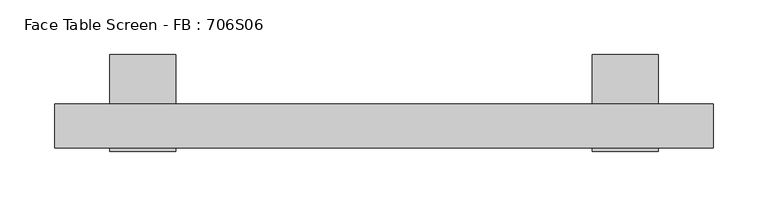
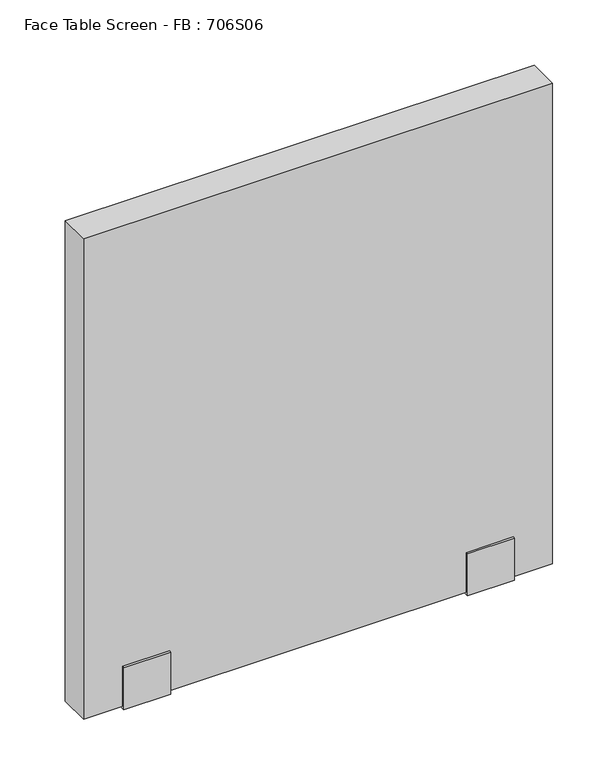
"""IFC4 building model written with IfcOpenShell, lengths in millimetres: furniture geometry, Face Table Screen - FB : 706S06."""

import ifcopenshell
import ifcopenshell.guid

model = None  # the IFC model being written
_history = None  # IfcOwnerHistory: only IFC2X3 demands one
_inside = {}  # id of a spatial element -> (the spatial element, [elements in it])
_under = {}  # id of a project, library or spatial element -> (it, [spatial elements below it])
_declared = {}  # id of a project -> (the project, [libraries it declares])
_typed = {}  # id of a type object -> (the type object, [elements of that type])
_made_of = {}  # id of a material, layer set ... -> (it, [elements and type objects made of it])


def new_model(schema):
    """Start an empty IFC model of exactly this schema.

    Asked for "IFC4X3", IfcOpenShell would pick the latest addendum, in which some entities
    have other attributes; the version numbers below select the first issue.
    IFC2X3 requires an IfcOwnerHistory on every rooted entity: one is made here for all.
    """
    global model, _history
    if schema == "IFC4X3":
        model = ifcopenshell.file(schema_version=(4, 3, 0, 0))
    else:
        model = ifcopenshell.file(schema=schema)
    _inside.clear()
    _under.clear()
    _declared.clear()
    _typed.clear()
    _made_of.clear()
    _history = None
    if model.schema == "IFC2X3":
        org = make("IfcOrganization", Name="unknown")
        user = make(
            "IfcPersonAndOrganization",
            ThePerson=make("IfcPerson", FamilyName="unknown"),
            TheOrganization=org,
        )
        app = make(
            "IfcApplication",
            ApplicationDeveloper=org,
            Version="unknown",
            ApplicationFullName="unknown",
            ApplicationIdentifier="unknown",
        )
        _history = make(
            "IfcOwnerHistory",
            OwningUser=user,
            OwningApplication=app,
            ChangeAction="ADDED",
            CreationDate=0,
        )
    return model


def make(cls, **values):
    """One entity of the class cls with the attributes given. An attribute that is None is left unset."""
    return model.create_entity(
        cls, **{name: value for name, value in values.items() if value is not None}
    )


def rooted(cls, **values):
    """An entity with a GlobalId (a new one), such as an element, a storey or a relation."""
    return make(cls, GlobalId=ifcopenshell.guid.new(), OwnerHistory=_history, **values)


def si_unit(unit_type, name, prefix=None):
    """IfcSIUnit, for example si_unit("LENGTHUNIT", "METRE", prefix="MILLI")."""
    return make("IfcSIUnit", UnitType=unit_type, Prefix=prefix, Name=name)


def assignment(units):
    """IfcUnitAssignment: the units of a project."""
    return None if units is None else make("IfcUnitAssignment", Units=units)


def point(xyz):
    """IfcCartesianPoint."""
    return None if xyz is None else make("IfcCartesianPoint", Coordinates=xyz)


def direction(xyz):
    """IfcDirection."""
    return None if xyz is None else make("IfcDirection", DirectionRatios=xyz)


def frame(location, z_axis=None, x_axis=None):
    """IfcAxis2Placement3D, a coordinate frame: its origin and axes. An axis left out is left unset."""
    return make(
        "IfcAxis2Placement3D",
        Location=point(location),
        Axis=direction(z_axis),
        RefDirection=direction(x_axis),
    )


def origin():
    """The frame at (0, 0, 0) with its axes left unset."""
    return frame((0.0, 0.0, 0.0))


def place(relative_to, where):
    """IfcLocalPlacement: puts the frame where relative to a parent placement (None: the world)."""
    return make(
        "IfcLocalPlacement", PlacementRelTo=relative_to, RelativePlacement=where
    )


def context(
    kind, dimensions, precision=None, world=None, true_north=None, identifier=None
):
    """IfcGeometricRepresentationContext, for example the 3D "Model" context."""
    return make(
        "IfcGeometricRepresentationContext",
        ContextIdentifier=identifier,
        ContextType=kind,
        CoordinateSpaceDimension=dimensions,
        Precision=precision,
        WorldCoordinateSystem=world,
        TrueNorth=true_north,
    )


def project(units=None, contexts=None):
    """IfcProject with its units and contexts."""
    return rooted(
        "IfcProject",
        Name="project",
        RepresentationContexts=contexts,
        UnitsInContext=assignment(units),
    )


def spatial(cls, under=None, at=None, **own):
    """A site, building, storey or space (cls), placed at a placement, below another one or the project."""
    s = rooted(cls, ObjectPlacement=at, **own)
    if under is not None:
        _under.setdefault(under.id(), (under, []))[1].append(s)
    return s


def polyline(points):
    """IfcPolyline through the points."""
    return make("IfcPolyline", Points=[point(p) for p in points])


def outline(outer, holes=None, kind="AREA"):
    """IfcArbitraryClosedProfileDef: a profile drawn as a closed curve; with holes, ...WithVoids."""
    if holes is None:
        return make("IfcArbitraryClosedProfileDef", ProfileType=kind, OuterCurve=outer)
    return make(
        "IfcArbitraryProfileDefWithVoids",
        ProfileType=kind,
        OuterCurve=outer,
        InnerCurves=holes,
    )


def extrude(swept, where, along, depth):
    """IfcExtrudedAreaSolid: the profile swept, set in the frame where, extruded along a direction by depth."""
    return make(
        "IfcExtrudedAreaSolid",
        SweptArea=swept,
        Position=where,
        ExtrudedDirection=direction(along),
        Depth=depth,
    )


def shape(context_of_items, identifier, shape_type, items):
    """IfcShapeRepresentation: the items that make up one representation, for example the "Body"."""
    return make(
        "IfcShapeRepresentation",
        ContextOfItems=context_of_items,
        RepresentationIdentifier=identifier,
        RepresentationType=shape_type,
        Items=items,
    )


def source(mapping_origin, context_of_items, identifier, shape_type, items):
    """IfcRepresentationMap: a shape defined once, which mapped items show again and again."""
    return make(
        "IfcRepresentationMap",
        MappingOrigin=mapping_origin,
        MappedRepresentation=shape(context_of_items, identifier, shape_type, items),
    )


def transform(
    local_origin,
    x_axis=None,
    y_axis=None,
    z_axis=None,
    scale=None,
    scale2=None,
    scale3=None,
    uniform=True,
):
    """IfcCartesianTransformationOperator3D, or its non-uniform kind. x_axis, y_axis, z_axis: its Axis1, 2, 3."""
    if uniform:
        return make(
            "IfcCartesianTransformationOperator3D",
            Axis1=direction(x_axis),
            Axis2=direction(y_axis),
            LocalOrigin=point(local_origin),
            Scale=scale,
            Axis3=direction(z_axis),
        )
    return make(
        "IfcCartesianTransformationOperator3DnonUniform",
        Axis1=direction(x_axis),
        Axis2=direction(y_axis),
        LocalOrigin=point(local_origin),
        Scale=scale,
        Axis3=direction(z_axis),
        Scale2=scale2,
        Scale3=scale3,
    )


def mapped(mapping_source, mapping_target):
    """IfcMappedItem: shows the shape of a source again, moved by a transform."""
    return make(
        "IfcMappedItem", MappingSource=mapping_source, MappingTarget=mapping_target
    )


def made_of(thing, what):
    """Note that an element or type object is made of a material, layer set ...; save() writes the relation."""
    if what is not None:
        _made_of.setdefault(what.id(), (what, []))[1].append(thing)
    return thing


def element(
    cls,
    number,
    at=None,
    inside=None,
    cuts=None,
    type_object=None,
    material=None,
    context=None,
    identifier="Body",
    shape_type=None,
    held_by="IfcProductDefinitionShape",
    body=None,
    shapes=None,
    **own,
):
    """One element of the class cls, such as IfcWall. Its Tag is "e" and its number.

    at: its placement. inside: the storey or other place that contains it. cuts: it is an
    opening in that element (IfcRelVoidsElement). A single representation is given by context,
    identifier, shape_type and body (its items); several are given by shapes. held_by: the class
    of the entity that holds the representations. save() writes the other relations.
    """
    e = rooted(cls, Tag="e%d" % number, ObjectPlacement=at, **own)
    if body is not None:
        shapes = [shape(context, identifier, shape_type, body)]
    if shapes is not None:
        e.Representation = make(held_by, Representations=shapes)
    if inside is not None:
        _inside.setdefault(inside.id(), (inside, []))[1].append(e)
    if cuts is not None:
        rooted(
            "IfcRelVoidsElement", RelatingBuildingElement=cuts, RelatedOpeningElement=e
        )
    if type_object is not None:
        _typed.setdefault(type_object.id(), (type_object, []))[1].append(e)
    return made_of(e, material)


def aggregate(whole, parts):
    """IfcRelAggregates: a whole, such as a stair, and the parts it consists of."""
    return rooted("IfcRelAggregates", RelatingObject=whole, RelatedObjects=parts)


def save(model, path):
    """Write the relations noted so far, then the file.

    IfcRelAggregates (storeys below a building ...), IfcRelContainedInSpatialStructure (elements
    in a storey), IfcRelDefinesByType, IfcRelAssociatesMaterial and IfcRelDeclares: one each for
    every whole, place, type object, material and project.
    """
    for whole, parts in _under.values():
        aggregate(whole, parts)
    for where, things in _inside.values():
        rooted(
            "IfcRelContainedInSpatialStructure",
            RelatedElements=things,
            RelatingStructure=where,
        )
    for kind, things in _typed.values():
        rooted("IfcRelDefinesByType", RelatedObjects=things, RelatingType=kind)
    for what, things in _made_of.values():
        rooted("IfcRelAssociatesMaterial", RelatedObjects=things, RelatingMaterial=what)
    for by, libraries in _declared.values():
        rooted("IfcRelDeclares", RelatingContext=by, RelatedDefinitions=libraries)
    model.write(path)


def face_table_screen_fb_706s06_1b9d16fb(model_context):
    return source(origin(), model_context, "Body", "SweptSolid", [
        extrude(outline(polyline([(-42.9999947, -156.0), (-42.9999997, -99.0433898), (-40.0, -99.0433898), (-40.0, -153.0), (0.0, -153.0), (0.0, -22.0), (45.0, -22.0), (45.0, -25.0433898), (3.0000062, -25.0433898), (2.9999947, -156.0), (-42.9999947, -156.0)])), frame((209.9863751, 0.0, 0.0), z_axis=(1.0, 0.0, 0.0), x_axis=(0.0, 1.0, 0.0)), (0.0, 0.0, 1.0), 60.0),
        extrude(outline(polyline([(-42.9999947, -156.0), (-42.9999997, -99.0433898), (-40.0, -99.0433898), (-40.0, -153.0), (0.0, -153.0), (0.0, -22.0), (45.0, -22.0), (45.0, -25.0433898), (3.0000062, -25.0433898), (2.9999947, -156.0), (-42.9999947, -156.0)])), frame((-230.0136249, 0.0, 0.0), z_axis=(1.0, 0.0, 0.0), x_axis=(0.0, 1.0, 0.0)), (0.0, 0.0, 1.0), 60.0),
        extrude(outline(polyline([(319.9863751, -40.0), (-280.0136249, -40.0), (-280.0136249, 0.0), (319.9863751, 0.0), (319.9863751, -40.0)])), frame((0.0, 0.0, -153.0), z_axis=(0.0, 0.0, 1.0), x_axis=(1.0, 0.0, 0.0)), (0.0, 0.0, 1.0), 650.0),
    ])


if __name__ == "__main__":
    model = new_model("IFC4")
    model_context = context("Model", 3, world=origin())
    ifc_project = project(units=[si_unit("LENGTHUNIT", "METRE", prefix="MILLI")], contexts=[model_context])
    site = spatial("IfcSite", under=ifc_project)
    building = spatial("IfcBuilding", under=site)
    placement = place(None, origin())
    face_table_screen_fb_706s06_shape = face_table_screen_fb_706s06_1b9d16fb(model_context)
    element("IfcFurniture", 1, ObjectType="Face Table Screen - FB : 706S06", at=placement, inside=building, context=model_context, shape_type="MappedRepresentation", body=[
        mapped(face_table_screen_fb_706s06_shape, transform((0.0, 0.0, 0.0), x_axis=(1.0, 0.0, 0.0), y_axis=(0.0, 1.0, 0.0), z_axis=(0.0, 0.0, 1.0))),
    ])
    save(model, "model.ifc")
